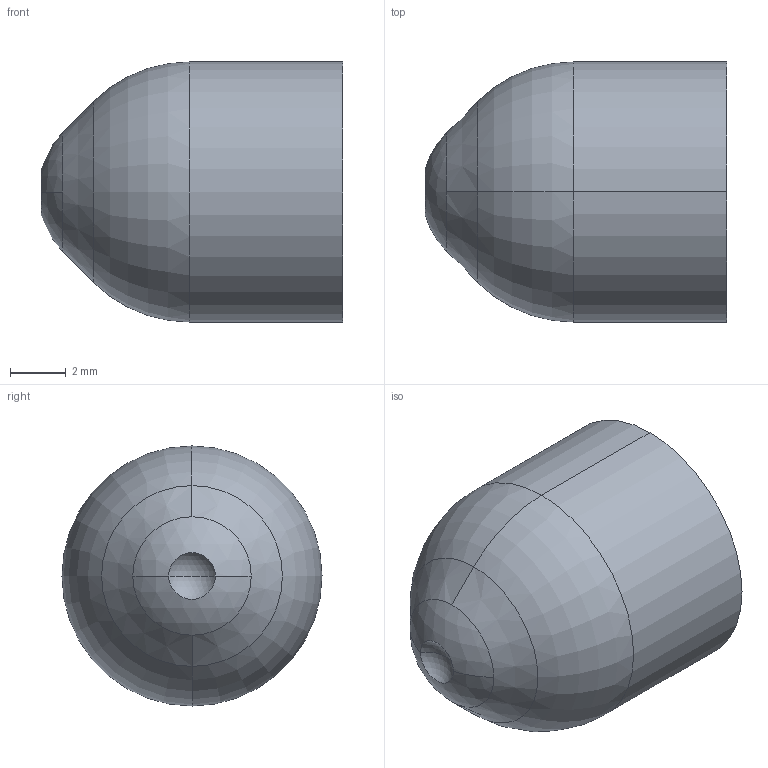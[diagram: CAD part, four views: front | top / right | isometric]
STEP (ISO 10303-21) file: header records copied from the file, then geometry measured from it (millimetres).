
FILE_DESCRIPTION (( 'STEP AP214' ), '1' );
FILE_NAME ('8001010_CUS.STEP', '2022-07-05T14:42:06', ( '' ), ( '' ), 'SwSTEP 2.0', 'SolidWorks 2020', '' );
FILE_SCHEMA (( 'AUTOMOTIVE_DESIGN' ));
Length unit declared in the file: millimetre
Products named in the file (1): 8001010_CUS
Bounding box: 10.8 x 9.32 x 9.32 mm (x, y, z)
Volume: 204.5 mm3; surface area: 560.1 mm2
Topology: 1 solids, 1 shells, 24 faces, 48 edges, 27 vertices
Faces by surface type: torus 8, cylinder 6, cone 4, sphere 4, plane 2
Entity records: 664 total; most frequent: DIRECTION 136, CARTESIAN_POINT 100, ORIENTED_EDGE 96, AXIS2_PLACEMENT_3D 63, EDGE_CURVE 48, CIRCLE 38, VERTEX_POINT 27, EDGE_LOOP 25
